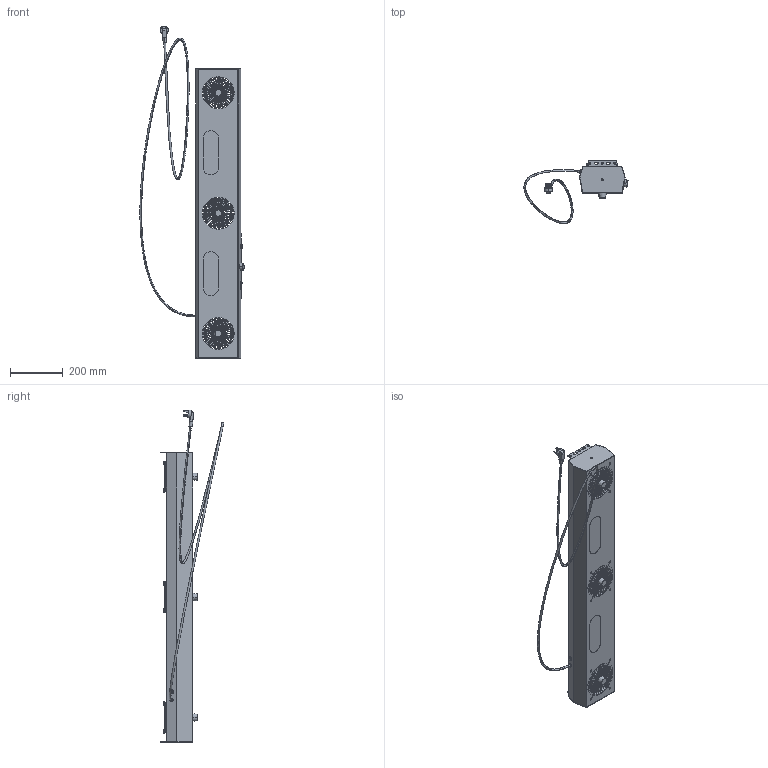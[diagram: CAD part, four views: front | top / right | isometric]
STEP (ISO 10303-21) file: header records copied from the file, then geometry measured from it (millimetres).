
FILE_DESCRIPTION (( 'STEP AP203' ), '1' );
FILE_NAME ('湮薜赽瑞齬110cm.STEP', '2024-09-19T01:49:53', ( '' ), ( '' ), 'SwSTEP 2.0', 'SolidWorks 2020', '' );
FILE_SCHEMA (( 'CONFIG_CONTROL_DESIGN' ));
Length unit declared in the file: millimetre
Products named in the file (1): 湮薜赽瑞齬110cm
Bounding box: 396.35 x 241.34 x 1263.4 mm (x, y, z)
Surface area: 1272316.1 mm2 (no closed solid volume)
Topology: 0 solids, 59 shells, 1505 faces, 3976 edges, 2620 vertices
Faces by surface type: cylinder 763, plane 697, torus 28, bspline 11, cone 6
Entity records: 51135 total; most frequent: CARTESIAN_POINT 12143, DIRECTION 8316, ORIENTED_EDGE 7944, EDGE_CURVE 3974, AXIS2_PLACEMENT_3D 3071, VERTEX_POINT 2620, LINE 2174, VECTOR 2174
